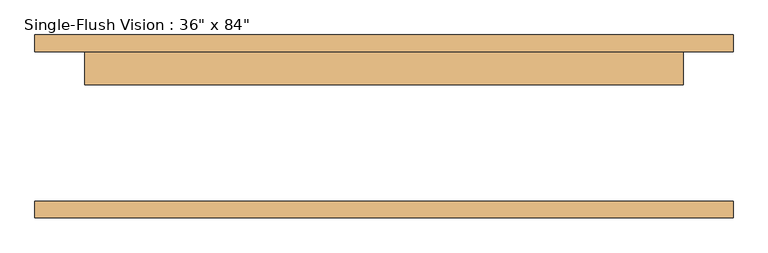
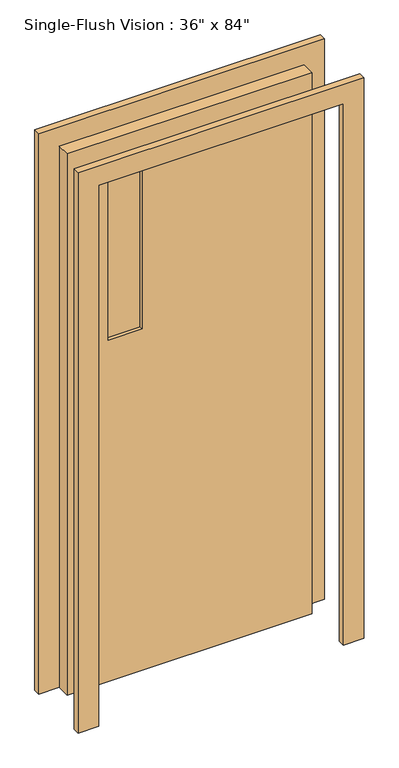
"""IFC4 building model written with IfcOpenShell, lengths in millimetres: door geometry."""

from ifc_helpers import new_model, si_unit, frame, origin, place, context, project, spatial, polyline, outline, extrude, source, transform, mapped, element, save


def door_a570ce24(model_context):
    return source(origin(), model_context, "Body", "SweptSolid", [
        extrude(outline(polyline([(2209.8, -533.4), (0.0, -533.4), (0.0, -457.2), (2133.6, -457.2), (2133.6, 457.2), (0.0, 457.2), (0.0, 533.4), (2209.8, 533.4), (2209.8, -533.4)])), frame((0.0, 114.3, 0.0), z_axis=(0.0, 1.0, 0.0), x_axis=(0.0, 0.0, 1.0)), (0.0, 0.0, 1.0), 25.4),
        extrude(outline(polyline([(2133.6, 457.2), (0.0, 457.2), (0.0, 533.4), (2209.8, 533.4), (2209.8, -533.4), (0.0, -533.4), (0.0, -457.2), (2133.6, -457.2), (2133.6, 457.2)])), frame((0.0, -139.7, 0.0), z_axis=(0.0, 1.0, 0.0), x_axis=(0.0, 0.0, 1.0)), (0.0, 0.0, 1.0), 25.4),
        extrude(outline(polyline([(-177.8, 76.2), (-304.8, 76.2), (-304.8, 82.55), (-177.8, 82.55), (-177.8, 76.2)])), frame((0.0, 0.0, 1346.2), z_axis=(0.0, 0.0, 1.0), x_axis=(1.0, 0.0, 0.0)), (0.0, 0.0, 1.0), 635.0),
        extrude(outline(polyline([(-177.8, 95.25), (-304.8, 95.25), (-304.8, 101.6), (-177.8, 101.6), (-177.8, 95.25)])), frame((0.0, 0.0, 1346.2), z_axis=(0.0, 0.0, 1.0), x_axis=(1.0, 0.0, 0.0)), (0.0, 0.0, 1.0), 635.0),
        extrude(outline(polyline([(2133.6, -457.2), (0.0, -457.2), (0.0, 457.2), (2133.6, 457.2), (2133.6, -457.2)]), holes=[polyline([(1981.2, -304.8), (1981.2, -177.8), (1346.2, -177.8), (1346.2, -304.8), (1981.2, -304.8)])]), frame((0.0, 63.5, 0.0), z_axis=(0.0, 1.0, 0.0), x_axis=(0.0, 0.0, 1.0)), (0.0, 0.0, 1.0), 50.8),
    ])


if __name__ == "__main__":
    model = new_model("IFC4")
    model_context = context("Model", 3, world=origin())
    ifc_project = project(units=[si_unit("LENGTHUNIT", "METRE", prefix="MILLI")], contexts=[model_context])
    site = spatial("IfcSite", under=ifc_project)
    building = spatial("IfcBuilding", under=site)
    placement = place(None, origin())
    door_shape = door_a570ce24(model_context)
    element("IfcDoor", 1, ObjectType="Single-Flush Vision : 36\" x 84\"", at=placement, inside=building, context=model_context, shape_type="MappedRepresentation", body=[
        mapped(door_shape, transform((0.0, 0.0, 0.0), x_axis=(1.0, 0.0, 0.0), y_axis=(0.0, 1.0, 0.0), z_axis=(0.0, 0.0, 1.0))),
    ])
    save(model, "model.ifc")
